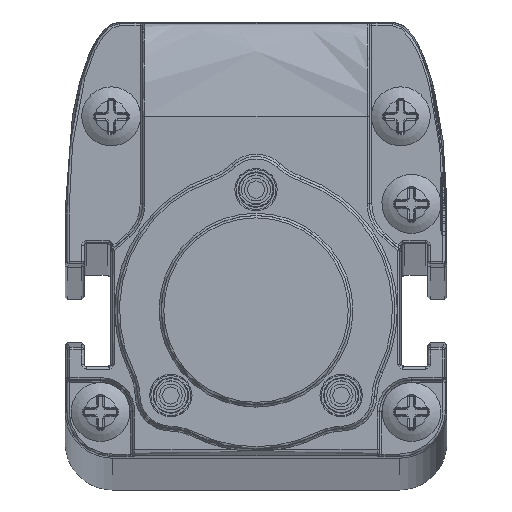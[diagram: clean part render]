
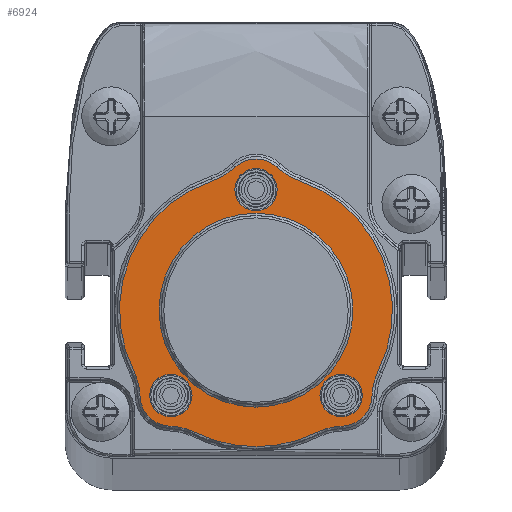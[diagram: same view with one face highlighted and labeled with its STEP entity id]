
A CAD part, top view. The second image highlights one B-rep face of the part: STEP entity #6924.
In plain terms, the highlighted planar face has unit normal (0, 0, 1).
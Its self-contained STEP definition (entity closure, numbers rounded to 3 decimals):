
#6924=ADVANCED_FACE('',(#8807,#8808,#8809,#8810,#8811),#8362,.T.);
#8362=PLANE('',#26362);
#8807=FACE_BOUND('',#9733,.T.);
#8808=FACE_BOUND('',#9734,.T.);
#8809=FACE_BOUND('',#9735,.T.);
#8810=FACE_BOUND('',#9736,.T.);
#8811=FACE_BOUND('',#9737,.T.);
#9733=EDGE_LOOP('',(#12697));
#9734=EDGE_LOOP('',(#12698));
#9735=EDGE_LOOP('',(#12699));
#9736=EDGE_LOOP('',(#12700));
#9737=EDGE_LOOP('',(#12701,#12702,#12703,#12704,#12705,#12706,#12707,#12708,
#12709,#12710,#12711,#12712));
#12697=ORIENTED_EDGE('',*,*,#21154,.T.);
#12698=ORIENTED_EDGE('',*,*,#20536,.T.);
#12699=ORIENTED_EDGE('',*,*,#20542,.T.);
#12700=ORIENTED_EDGE('',*,*,#20546,.T.);
#12701=ORIENTED_EDGE('',*,*,#21153,.T.);
#12702=ORIENTED_EDGE('',*,*,#21132,.T.);
#12703=ORIENTED_EDGE('',*,*,#21134,.T.);
#12704=ORIENTED_EDGE('',*,*,#21136,.T.);
#12705=ORIENTED_EDGE('',*,*,#21138,.T.);
#12706=ORIENTED_EDGE('',*,*,#21140,.T.);
#12707=ORIENTED_EDGE('',*,*,#21142,.T.);
#12708=ORIENTED_EDGE('',*,*,#21144,.T.);
#12709=ORIENTED_EDGE('',*,*,#21146,.T.);
#12710=ORIENTED_EDGE('',*,*,#21148,.T.);
#12711=ORIENTED_EDGE('',*,*,#21150,.T.);
#12712=ORIENTED_EDGE('',*,*,#21152,.T.);
#18384=VERTEX_POINT('',#35872);
#18390=VERTEX_POINT('',#35890);
#18394=VERTEX_POINT('',#35936);
#18742=VERTEX_POINT('',#40131);
#18743=VERTEX_POINT('',#40133);
#18744=VERTEX_POINT('',#40161);
#18745=VERTEX_POINT('',#40189);
#18746=VERTEX_POINT('',#40217);
#18747=VERTEX_POINT('',#40245);
#18748=VERTEX_POINT('',#40273);
#18749=VERTEX_POINT('',#40301);
#18750=VERTEX_POINT('',#40329);
#18751=VERTEX_POINT('',#40357);
#18752=VERTEX_POINT('',#40385);
#18753=VERTEX_POINT('',#40413);
#18754=VERTEX_POINT('',#40467);
#20536=EDGE_CURVE('',#18384,#18384,#24011,.T.);
#20542=EDGE_CURVE('',#18390,#18390,#24017,.T.);
#20546=EDGE_CURVE('',#18394,#18394,#24021,.T.);
#21132=EDGE_CURVE('',#18742,#18743,#24287,.T.);
#21134=EDGE_CURVE('',#18743,#18744,#24289,.T.);
#21136=EDGE_CURVE('',#18744,#18745,#24291,.T.);
#21138=EDGE_CURVE('',#18745,#18746,#24293,.T.);
#21140=EDGE_CURVE('',#18746,#18747,#24295,.T.);
#21142=EDGE_CURVE('',#18747,#18748,#24297,.T.);
#21144=EDGE_CURVE('',#18748,#18749,#24299,.T.);
#21146=EDGE_CURVE('',#18749,#18750,#24301,.T.);
#21148=EDGE_CURVE('',#18750,#18751,#24303,.T.);
#21150=EDGE_CURVE('',#18751,#18752,#24305,.T.);
#21152=EDGE_CURVE('',#18752,#18753,#24307,.T.);
#21153=EDGE_CURVE('',#18753,#18742,#24308,.T.);
#21154=EDGE_CURVE('',#18754,#18754,#24309,.T.);
#24011=CIRCLE('',#25889,1.8);
#24017=CIRCLE('',#25901,1.8);
#24021=CIRCLE('',#25908,8.2);
#24287=CIRCLE('',#26339,2.6);
#24289=CIRCLE('',#26341,5.2);
#24291=CIRCLE('',#26343,11.55);
#24293=CIRCLE('',#26345,5.2);
#24295=CIRCLE('',#26347,2.6);
#24297=CIRCLE('',#26349,5.2);
#24299=CIRCLE('',#26351,11.55);
#24301=CIRCLE('',#26353,5.2);
#24303=CIRCLE('',#26355,2.6);
#24305=CIRCLE('',#26357,5.2);
#24307=CIRCLE('',#26359,11.55);
#24308=CIRCLE('',#26360,5.2);
#24309=CIRCLE('',#26361,1.8);
#25889=AXIS2_PLACEMENT_3D('',#35871,#28892,#28893);
#25901=AXIS2_PLACEMENT_3D('',#35889,#28916,#28917);
#25908=AXIS2_PLACEMENT_3D('',#35935,#28930,#28931);
#26339=AXIS2_PLACEMENT_3D('',#40134,#30029,#30030);
#26341=AXIS2_PLACEMENT_3D('',#40162,#30033,#30034);
#26343=AXIS2_PLACEMENT_3D('',#40190,#30037,#30038);
#26345=AXIS2_PLACEMENT_3D('',#40218,#30041,#30042);
#26347=AXIS2_PLACEMENT_3D('',#40246,#30045,#30046);
#26349=AXIS2_PLACEMENT_3D('',#40274,#30049,#30050);
#26351=AXIS2_PLACEMENT_3D('',#40302,#30053,#30054);
#26353=AXIS2_PLACEMENT_3D('',#40330,#30057,#30058);
#26355=AXIS2_PLACEMENT_3D('',#40358,#30061,#30062);
#26357=AXIS2_PLACEMENT_3D('',#40386,#30065,#30066);
#26359=AXIS2_PLACEMENT_3D('',#40414,#30069,#30070);
#26360=AXIS2_PLACEMENT_3D('',#40440,#30071,#30072);
#26361=AXIS2_PLACEMENT_3D('',#40466,#30073,#30074);
#26362=AXIS2_PLACEMENT_3D('',#40468,#30075,#30076);
#28892=DIRECTION('',(0.,0.,-1.));
#28893=DIRECTION('',(1.,0.,0.));
#28916=DIRECTION('',(0.,0.,-1.));
#28917=DIRECTION('',(1.,0.,0.));
#28930=DIRECTION('',(0.,0.,-1.));
#28931=DIRECTION('',(1.,0.,0.));
#30029=DIRECTION('',(0.,0.,1.));
#30030=DIRECTION('',(0.687,0.727,0.));
#30033=DIRECTION('',(0.,0.,-1.));
#30034=DIRECTION('',(0.687,-0.727,0.));
#30037=DIRECTION('',(0.,0.,1.));
#30038=DIRECTION('',(-0.32,0.948,0.));
#30041=DIRECTION('',(0.,0.,-1.));
#30042=DIRECTION('',(0.896,0.444,0.));
#30045=DIRECTION('',(0.,0.,1.));
#30046=DIRECTION('',(-1.,-0.029,0.));
#30049=DIRECTION('',(0.,0.,-1.));
#30050=DIRECTION('',(0.029,1.,0.));
#30053=DIRECTION('',(0.,0.,1.));
#30054=DIRECTION('',(-0.444,-0.896,0.));
#30057=DIRECTION('',(0.,0.,-1.));
#30058=DIRECTION('',(-0.444,0.896,0.));
#30061=DIRECTION('',(0.,0.,1.));
#30062=DIRECTION('',(0.029,-1.,0.));
#30065=DIRECTION('',(0.,0.,-1.));
#30066=DIRECTION('',(-1.,0.029,0.));
#30069=DIRECTION('',(0.,0.,1.));
#30070=DIRECTION('',(0.896,-0.444,0.));
#30071=DIRECTION('',(0.,0.,-1.));
#30072=DIRECTION('',(-0.32,-0.948,0.));
#30073=DIRECTION('',(0.,0.,-1.));
#30074=DIRECTION('',(1.,0.,0.));
#30075=DIRECTION('',(0.,0.,1.));
#30076=DIRECTION('',(1.,0.,0.));
#35871=CARTESIAN_POINT('',(7.212,-7.212,1580.34));
#35872=CARTESIAN_POINT('',(9.012,-7.212,1580.34));
#35889=CARTESIAN_POINT('',(-7.213,-7.212,1580.34));
#35890=CARTESIAN_POINT('',(-5.413,-7.212,1580.34));
#35935=CARTESIAN_POINT('',(0.,0.,1580.34));
#35936=CARTESIAN_POINT('',(8.2,0.,1580.34));
#40131=CARTESIAN_POINT('',(1.785,12.09,1580.34));
#40133=CARTESIAN_POINT('',(-1.785,12.09,1580.34));
#40134=CARTESIAN_POINT('',(0.,10.2,1580.34));
#40161=CARTESIAN_POINT('',(-3.693,10.944,1580.34));
#40162=CARTESIAN_POINT('',(-5.356,15.871,1580.34));
#40189=CARTESIAN_POINT('',(-10.35,-5.127,1580.34));
#40190=CARTESIAN_POINT('',(0.,0.,1580.34));
#40217=CARTESIAN_POINT('',(-9.811,-7.287,1580.34));
#40218=CARTESIAN_POINT('',(-15.009,-7.435,1580.34));
#40245=CARTESIAN_POINT('',(-7.287,-9.811,1580.34));
#40246=CARTESIAN_POINT('',(-7.213,-7.212,1580.34));
#40273=CARTESIAN_POINT('',(-5.127,-10.35,1580.34));
#40274=CARTESIAN_POINT('',(-7.435,-15.009,1580.34));
#40301=CARTESIAN_POINT('',(5.127,-10.35,1580.34));
#40302=CARTESIAN_POINT('',(0.,0.,1580.34));
#40329=CARTESIAN_POINT('',(7.287,-9.811,1580.34));
#40330=CARTESIAN_POINT('',(7.435,-15.009,1580.34));
#40357=CARTESIAN_POINT('',(9.811,-7.287,1580.34));
#40358=CARTESIAN_POINT('',(7.212,-7.212,1580.34));
#40385=CARTESIAN_POINT('',(10.35,-5.127,1580.34));
#40386=CARTESIAN_POINT('',(15.009,-7.435,1580.34));
#40413=CARTESIAN_POINT('',(3.693,10.944,1580.34));
#40414=CARTESIAN_POINT('',(0.,0.,1580.34));
#40440=CARTESIAN_POINT('',(5.356,15.871,1580.34));
#40466=CARTESIAN_POINT('',(0.,10.2,1580.34));
#40467=CARTESIAN_POINT('',(1.8,10.2,1580.34));
#40468=CARTESIAN_POINT('',(-12.334,-12.095,1580.34));
